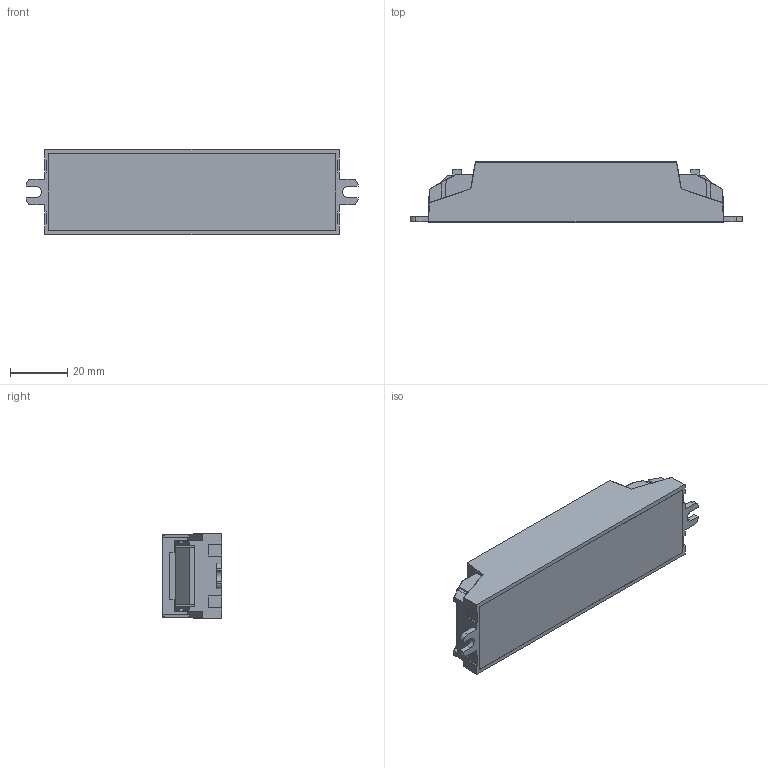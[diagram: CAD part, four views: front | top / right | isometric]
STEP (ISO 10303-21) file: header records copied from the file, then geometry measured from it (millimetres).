
FILE_DESCRIPTION(/* description */ (''),/* implementation_level */ '2;1');
FILE_NAME(/* name */ 'CC23-1.stp',/* time_stamp */ '2023-11-06T15:22:54+08:00',/* author */ (''),/* organization */ (''),/* preprocessor_version */ 'ST-DEVELOPER v16.7',/* originating_system */ 'SIEMENS PLM Software NX 12.0',/* authorisation */ '');
FILE_SCHEMA (('AUTOMOTIVE_DESIGN { 1 0 10303 214 3 1 1 1 }'));
Length unit declared in the file: millimetre
Products named in the file (1): CC23-1
Bounding box: 116.39 x 21 x 29.99 mm (x, y, z)
Volume: 21055.6 mm3; surface area: 29976.5 mm2
Topology: 3 solids, 3 shells, 553 faces, 1508 edges, 965 vertices
Faces by surface type: plane 459, cylinder 68, sphere 24, cone 2
Entity records: 17335 total; most frequent: CARTESIAN_POINT 3100, ORIENTED_EDGE 3000, DIRECTION 2711, EDGE_CURVE 1500, LINE 1343, VECTOR 1343, VERTEX_POINT 965, AXIS2_PLACEMENT_3D 684
